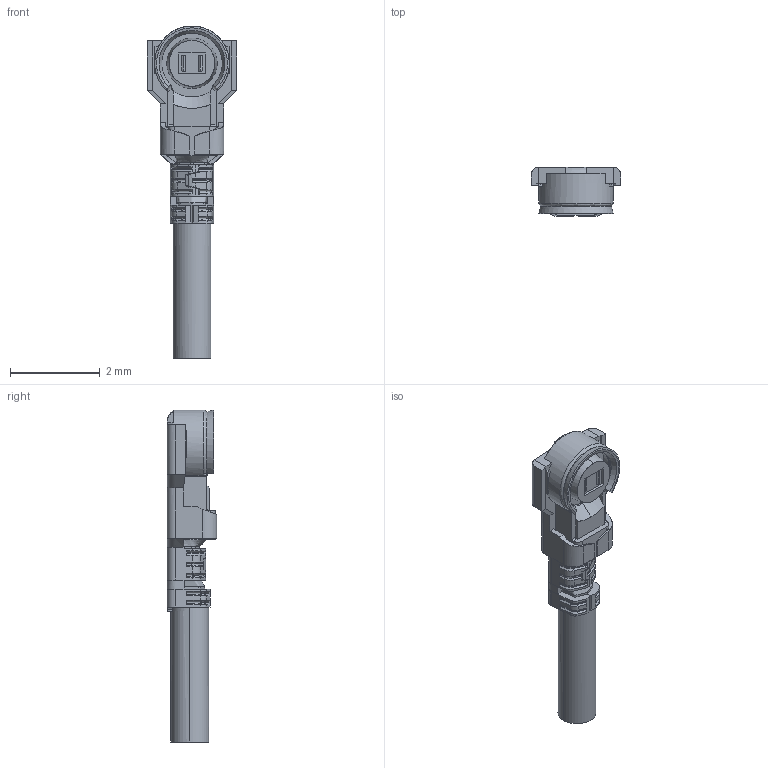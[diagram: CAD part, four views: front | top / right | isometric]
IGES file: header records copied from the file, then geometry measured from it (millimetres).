
Start section: SolidWorks IGES file using analytic representation for surfaces
Global section: file name: D:\3dwork\Toida\20714 3D model for I-PEX web\20714C PLUG (0.84) R1 IGES ALL.IGS; native system: SolidWorks 2025; preprocessor: SolidWorks 2025; author: E0556; date: 260713.120025; units: millimetre
Bounding box: 2 x 1.09 x 7.38 mm (x, y, z)
Surface area: 35.2 mm2 (no closed solid volume)
Topology: 0 solids, 0 shells, 411 faces, 2400 edges, 2396 vertices
Faces by surface type: bspline 285, revolution 126
